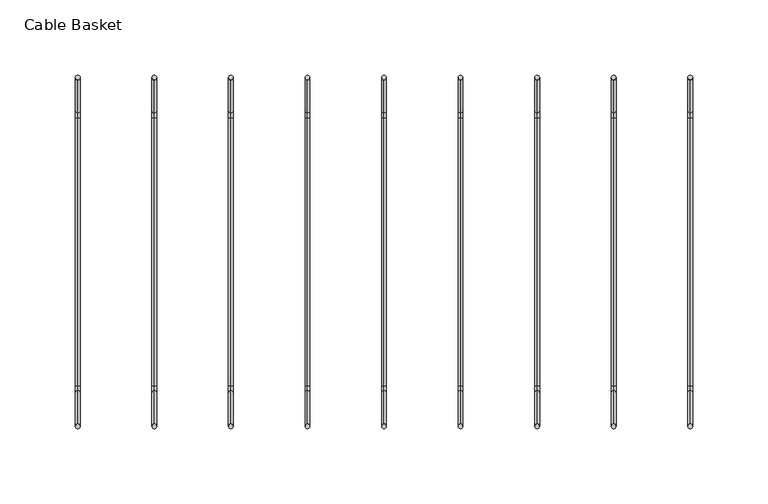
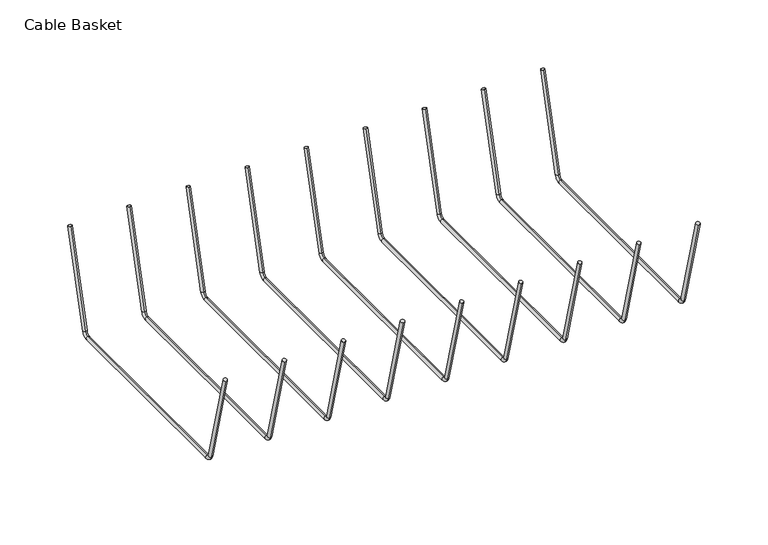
"""IFC4 building model written with IfcOpenShell, lengths in millimetres: furniture geometry, Senator_Lockers_SenseiQ_CableBasket : Cable Basket."""

from ifc_helpers import new_model, si_unit, point, frame, origin, place, context, project, spatial, circle_curve, ellipse_curve, trimmed, source, transform, mapped, element, save
from ifc_brep_helpers import plane_surface, cylinder_surface, revolved_surface, advanced_brep


def cable_basket_346b2b80(model_context):
    return source(origin(), model_context, "Body", "AdvancedBrep", [
        advanced_brep(
        [(463.1, -117.1901079, 90.4858785), (463.1, -114.0991453, 91.3140995), (463.1, -95.0858753, 7.9917594), (463.1, -91.9949127, 8.8199804), (463.1, -88.7107649, 6.2999651), (463.1, -88.7107649, 3.0999651), (463.1, 88.710803, 3.0999651), (463.1, 88.710803, 6.2999651), (463.1, 91.9949508, 8.8199804), (463.1, 95.0859135, 7.9917594), (463.1, 117.1901461, 90.4858785), (463.1, 114.0991834, 91.3140995)],
        [
            (0, 1, circle_curve(frame((463.1, -115.6446266, 90.899989), z_axis=(0.0, -0.25881904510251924, 0.9659258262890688), x_axis=(0.0, 0.9659258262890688, 0.25881904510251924)), 1.6)),
            (1, 0, circle_curve(frame((463.1, -115.6446266, 90.899989), z_axis=(0.0, -0.25881904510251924, 0.9659258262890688), x_axis=(0.0, 0.9659258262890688, 0.25881904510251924)), 1.6)),
            (0, 2),
            (2, 3, circle_curve(frame((463.1, -93.540394, 8.4058699), z_axis=(0.0, -0.25881904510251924, 0.9659258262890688), x_axis=(0.0, 0.9659258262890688, 0.25881904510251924)), 1.6)),
            (3, 1),
            (3, 2, circle_curve(frame((463.1, -93.540394, 8.4058699), z_axis=(0.0, -0.25881904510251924, 0.9659258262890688), x_axis=(0.0, 0.9659258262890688, 0.25881904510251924)), 1.6)),
            (4, 5, circle_curve(frame((463.1, -88.7107649, 4.6999651), z_axis=(0.0, 1.0, 0.0), x_axis=(0.0, 0.0, 1.0)), 1.6)),
            (5, 6),
            (6, 7, circle_curve(frame((463.1, 88.710803, 4.6999651), z_axis=(0.0, -1.0, 0.0), x_axis=(0.0, 0.0, 1.0)), 1.6)),
            (7, 4),
            (5, 4, circle_curve(frame((463.1, -88.7107649, 4.6999651), z_axis=(0.0, 1.0, 0.0), x_axis=(0.0, 0.0, 1.0)), 1.6)),
            (7, 6, circle_curve(frame((463.1, 88.710803, 4.6999651), z_axis=(0.0, -1.0, 0.0), x_axis=(0.0, 0.0, 1.0)), 1.6)),
            (8, 7, circle_curve(frame((463.1, 88.710803, 9.6999651), z_axis=(-1.0, 0.0, 0.0), x_axis=(0.0, 0.0, -1.0)), 3.4)),
            (6, 9, circle_curve(frame((463.1, 88.710803, 9.6999651), z_axis=(1.0, 0.0, 0.0), x_axis=(0.0, 0.0, -1.0)), 6.6)),
            (9, 8, circle_curve(frame((463.1, 93.5404322, 8.4058699), z_axis=(0.0, -0.2588190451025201, -0.9659258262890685), x_axis=(0.0, -0.9659258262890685, 0.2588190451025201)), 1.6)),
            (8, 9, circle_curve(frame((463.1, 93.5404322, 8.4058699), z_axis=(0.0, -0.25881904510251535, -0.9659258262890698), x_axis=(0.0, -0.9659258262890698, 0.25881904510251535)), 1.6)),
            (10, 11, circle_curve(frame((463.1, 115.6446648, 90.899989), z_axis=(0.0, 0.25881904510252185, 0.965925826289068), x_axis=(0.0, -0.965925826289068, 0.25881904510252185)), 1.6)),
            (11, 10, circle_curve(frame((463.1, 115.6446648, 90.899989), z_axis=(0.0, 0.25881904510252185, 0.965925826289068), x_axis=(0.0, -0.965925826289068, 0.25881904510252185)), 1.6)),
            (9, 10),
            (11, 8),
            (4, 3, circle_curve(frame((463.1, -88.7107649, 9.6999651), z_axis=(-1.0, 0.0, 0.0), x_axis=(0.0, -0.9659258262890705, -0.2588190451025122)), 3.4)),
            (2, 5, circle_curve(frame((463.1, -88.7107649, 9.6999651), z_axis=(1.0, 0.0, 0.0), x_axis=(0.0, -0.9659258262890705, -0.2588190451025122)), 6.6)),
        ],
        [
            plane_surface(frame((463.1, -115.6446266, 90.899989), z_axis=(0.0, -0.25881904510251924, 0.9659258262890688), x_axis=(1.0, 0.0, 0.0))),
            cylinder_surface(frame((463.1, -115.6446266, 90.899989), z_axis=(0.0, -0.25881904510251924, 0.9659258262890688), x_axis=(0.0, 0.9659258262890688, 0.25881904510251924)), 1.6),
            cylinder_surface(frame((463.1, -88.7107649, 4.6999651), z_axis=(0.0, -1.0, 0.0), x_axis=(0.0, 0.0, 1.0)), 1.6),
            revolved_surface(trimmed(ellipse_curve(frame((463.1, 88.710803, 4.6999651), z_axis=(0.0, -1.0, 0.0), x_axis=(0.0, 0.0, 1.0)), 1.6, 1.6), [point((463.1, 88.710803, 3.0999651))], [point((463.1, 88.710803, 6.2999651))], True, "CARTESIAN"), (463.1, 88.710803, 9.6999651), (1.0, 0.0, 0.0)),
            revolved_surface(trimmed(ellipse_curve(frame((463.1, 88.710803, 4.6999651), z_axis=(0.0, -1.0, 0.0), x_axis=(0.0, 0.0, 1.0)), 1.6, 1.6), [point((463.1, 88.710803, 6.2999651))], [point((463.1, 88.710803, 3.0999651))], True, "CARTESIAN"), (463.1, 88.710803, 9.6999651), (1.0, 0.0, 0.0)),
            plane_surface(frame((463.1, 115.6446648, 90.899989), z_axis=(0.0, 0.2588190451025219, 0.965925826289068), x_axis=(1.0, 0.0, 0.0))),
            cylinder_surface(frame((463.1, 93.5404322, 8.4058699), z_axis=(0.0, -0.25881904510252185, -0.965925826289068), x_axis=(0.0, -0.965925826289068, 0.25881904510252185)), 1.6),
            revolved_surface(trimmed(ellipse_curve(frame((463.1, -93.540394, 8.4058699), z_axis=(0.0, -0.2588190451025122, 0.9659258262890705), x_axis=(0.0, 0.9659258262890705, 0.2588190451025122)), 1.6, 1.6), [point((463.1, -95.0858753, 7.9917594))], [point((463.1, -91.9949127, 8.8199804))], True, "CARTESIAN"), (463.1, -88.7107649, 9.6999651), (1.0, 0.0, 0.0)),
            revolved_surface(trimmed(ellipse_curve(frame((463.1, -93.540394, 8.4058699), z_axis=(0.0, -0.2588190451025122, 0.9659258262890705), x_axis=(0.0, 0.9659258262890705, 0.2588190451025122)), 1.6, 1.6), [point((463.1, -91.9949127, 8.8199804))], [point((463.1, -95.0858753, 7.9917594))], True, "CARTESIAN"), (463.1, -88.7107649, 9.6999651), (1.0, 0.0, 0.0)),
        ],
        [
            (0, [[1, 2]]),
            (1, [[-1, 3, 4, 5]]),
            (1, [[-2, -5, 6, -3]]),
            (2, [[7, 8, 9, 10]]),
            (2, [[11, -10, 12, -8]]),
            (3, [[13, -9, 14, 15]]),
            (4, [[-14, -12, -13, 16]]),
            (5, [[17, 18]]),
            (6, [[-15, 19, -18, 20]]),
            (6, [[-16, -20, -17, -19]]),
            (7, [[21, -4, 22, -7]]),
            (8, [[-22, -6, -21, -11]]),
        ],
    ),
        advanced_brep(
        [(412.3, -117.1901079, 90.4858785), (412.3, -114.0991453, 91.3140995), (412.3, -95.0858753, 7.9917594), (412.3, -91.9949127, 8.8199804), (412.3, -88.7107649, 6.2999651), (412.3, -88.7107649, 3.0999651), (412.3, 88.710803, 3.0999651), (412.3, 88.710803, 6.2999651), (412.3, 91.9949508, 8.8199804), (412.3, 95.0859135, 7.9917594), (412.3, 117.1901461, 90.4858785), (412.3, 114.0991834, 91.3140995)],
        [
            (0, 1, circle_curve(frame((412.3, -115.6446266, 90.899989), z_axis=(0.0, -0.25881904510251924, 0.9659258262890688), x_axis=(0.0, 0.9659258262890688, 0.25881904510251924)), 1.6)),
            (1, 0, circle_curve(frame((412.3, -115.6446266, 90.899989), z_axis=(0.0, -0.25881904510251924, 0.9659258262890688), x_axis=(0.0, 0.9659258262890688, 0.25881904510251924)), 1.6)),
            (0, 2),
            (2, 3, circle_curve(frame((412.3, -93.540394, 8.4058699), z_axis=(0.0, -0.25881904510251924, 0.9659258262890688), x_axis=(0.0, 0.9659258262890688, 0.25881904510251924)), 1.6)),
            (3, 1),
            (3, 2, circle_curve(frame((412.3, -93.540394, 8.4058699), z_axis=(0.0, -0.25881904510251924, 0.9659258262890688), x_axis=(0.0, 0.9659258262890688, 0.25881904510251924)), 1.6)),
            (4, 5, circle_curve(frame((412.3, -88.7107649, 4.6999651), z_axis=(0.0, 1.0, 0.0), x_axis=(0.0, 0.0, 1.0)), 1.6)),
            (5, 6),
            (6, 7, circle_curve(frame((412.3, 88.710803, 4.6999651), z_axis=(0.0, -1.0, 0.0), x_axis=(0.0, 0.0, 1.0)), 1.6)),
            (7, 4),
            (5, 4, circle_curve(frame((412.3, -88.7107649, 4.6999651), z_axis=(0.0, 1.0, 0.0), x_axis=(0.0, 0.0, 1.0)), 1.6)),
            (7, 6, circle_curve(frame((412.3, 88.710803, 4.6999651), z_axis=(0.0, -1.0, 0.0), x_axis=(0.0, 0.0, 1.0)), 1.6)),
            (8, 7, circle_curve(frame((412.3, 88.710803, 9.6999651), z_axis=(-1.0, 0.0, 0.0), x_axis=(0.0, 0.0, -1.0)), 3.4)),
            (6, 9, circle_curve(frame((412.3, 88.710803, 9.6999651), z_axis=(1.0, 0.0, 0.0), x_axis=(0.0, 0.0, -1.0)), 6.6)),
            (9, 8, circle_curve(frame((412.3, 93.5404322, 8.4058699), z_axis=(0.0, -0.2588190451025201, -0.9659258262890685), x_axis=(0.0, -0.9659258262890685, 0.2588190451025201)), 1.6)),
            (8, 9, circle_curve(frame((412.3, 93.5404322, 8.4058699), z_axis=(0.0, -0.25881904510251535, -0.9659258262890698), x_axis=(0.0, -0.9659258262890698, 0.25881904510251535)), 1.6)),
            (10, 11, circle_curve(frame((412.3, 115.6446648, 90.899989), z_axis=(0.0, 0.25881904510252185, 0.965925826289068), x_axis=(0.0, -0.965925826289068, 0.25881904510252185)), 1.6)),
            (11, 10, circle_curve(frame((412.3, 115.6446648, 90.899989), z_axis=(0.0, 0.25881904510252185, 0.965925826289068), x_axis=(0.0, -0.965925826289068, 0.25881904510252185)), 1.6)),
            (9, 10),
            (11, 8),
            (4, 3, circle_curve(frame((412.3, -88.7107649, 9.6999651), z_axis=(-1.0, 0.0, 0.0), x_axis=(0.0, -0.9659258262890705, -0.2588190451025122)), 3.4)),
            (2, 5, circle_curve(frame((412.3, -88.7107649, 9.6999651), z_axis=(1.0, 0.0, 0.0), x_axis=(0.0, -0.9659258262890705, -0.2588190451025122)), 6.6)),
        ],
        [
            plane_surface(frame((412.3, -115.6446266, 90.899989), z_axis=(0.0, -0.25881904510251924, 0.9659258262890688), x_axis=(1.0, 0.0, 0.0))),
            cylinder_surface(frame((412.3, -115.6446266, 90.899989), z_axis=(0.0, -0.25881904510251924, 0.9659258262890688), x_axis=(0.0, 0.9659258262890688, 0.25881904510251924)), 1.6),
            cylinder_surface(frame((412.3, -88.7107649, 4.6999651), z_axis=(0.0, -1.0, 0.0), x_axis=(0.0, 0.0, 1.0)), 1.6),
            revolved_surface(trimmed(ellipse_curve(frame((412.3, 88.710803, 4.6999651), z_axis=(0.0, -1.0, 0.0), x_axis=(0.0, 0.0, 1.0)), 1.6, 1.6), [point((412.3, 88.710803, 3.0999651))], [point((412.3, 88.710803, 6.2999651))], True, "CARTESIAN"), (412.3, 88.710803, 9.6999651), (1.0, 0.0, 0.0)),
            revolved_surface(trimmed(ellipse_curve(frame((412.3, 88.710803, 4.6999651), z_axis=(0.0, -1.0, 0.0), x_axis=(0.0, 0.0, 1.0)), 1.6, 1.6), [point((412.3, 88.710803, 6.2999651))], [point((412.3, 88.710803, 3.0999651))], True, "CARTESIAN"), (412.3, 88.710803, 9.6999651), (1.0, 0.0, 0.0)),
            plane_surface(frame((412.3, 115.6446648, 90.899989), z_axis=(0.0, 0.2588190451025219, 0.965925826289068), x_axis=(1.0, 0.0, 0.0))),
            cylinder_surface(frame((412.3, 93.5404322, 8.4058699), z_axis=(0.0, -0.25881904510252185, -0.965925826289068), x_axis=(0.0, -0.965925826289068, 0.25881904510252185)), 1.6),
            revolved_surface(trimmed(ellipse_curve(frame((412.3, -93.540394, 8.4058699), z_axis=(0.0, -0.2588190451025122, 0.9659258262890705), x_axis=(0.0, 0.9659258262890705, 0.2588190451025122)), 1.6, 1.6), [point((412.3, -95.0858753, 7.9917594))], [point((412.3, -91.9949127, 8.8199804))], True, "CARTESIAN"), (412.3, -88.7107649, 9.6999651), (1.0, 0.0, 0.0)),
            revolved_surface(trimmed(ellipse_curve(frame((412.3, -93.540394, 8.4058699), z_axis=(0.0, -0.2588190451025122, 0.9659258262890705), x_axis=(0.0, 0.9659258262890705, 0.2588190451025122)), 1.6, 1.6), [point((412.3, -91.9949127, 8.8199804))], [point((412.3, -95.0858753, 7.9917594))], True, "CARTESIAN"), (412.3, -88.7107649, 9.6999651), (1.0, 0.0, 0.0)),
        ],
        [
            (0, [[1, 2]]),
            (1, [[-1, 3, 4, 5]]),
            (1, [[-2, -5, 6, -3]]),
            (2, [[7, 8, 9, 10]]),
            (2, [[11, -10, 12, -8]]),
            (3, [[13, -9, 14, 15]]),
            (4, [[-14, -12, -13, 16]]),
            (5, [[17, 18]]),
            (6, [[-15, 19, -18, 20]]),
            (6, [[-16, -20, -17, -19]]),
            (7, [[21, -4, 22, -7]]),
            (8, [[-22, -6, -21, -11]]),
        ],
    ),
        advanced_brep(
        [(361.5, -117.1901079, 90.4858785), (361.5, -114.0991453, 91.3140995), (361.5, -95.0858753, 7.9917594), (361.5, -91.9949127, 8.8199804), (361.5, -88.7107649, 6.2999651), (361.5, -88.7107649, 3.0999651), (361.5, 88.710803, 3.0999651), (361.5, 88.710803, 6.2999651), (361.5, 91.9949508, 8.8199804), (361.5, 95.0859135, 7.9917594), (361.5, 117.1901461, 90.4858785), (361.5, 114.0991834, 91.3140995)],
        [
            (0, 1, circle_curve(frame((361.5, -115.6446266, 90.899989), z_axis=(0.0, -0.25881904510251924, 0.9659258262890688), x_axis=(0.0, 0.9659258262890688, 0.25881904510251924)), 1.6)),
            (1, 0, circle_curve(frame((361.5, -115.6446266, 90.899989), z_axis=(0.0, -0.25881904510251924, 0.9659258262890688), x_axis=(0.0, 0.9659258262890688, 0.25881904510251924)), 1.6)),
            (0, 2),
            (2, 3, circle_curve(frame((361.5, -93.540394, 8.4058699), z_axis=(0.0, -0.25881904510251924, 0.9659258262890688), x_axis=(0.0, 0.9659258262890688, 0.25881904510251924)), 1.6)),
            (3, 1),
            (3, 2, circle_curve(frame((361.5, -93.540394, 8.4058699), z_axis=(0.0, -0.25881904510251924, 0.9659258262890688), x_axis=(0.0, 0.9659258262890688, 0.25881904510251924)), 1.6)),
            (4, 5, circle_curve(frame((361.5, -88.7107649, 4.6999651), z_axis=(0.0, 1.0, 0.0), x_axis=(0.0, 0.0, 1.0)), 1.6)),
            (5, 6),
            (6, 7, circle_curve(frame((361.5, 88.710803, 4.6999651), z_axis=(0.0, -1.0, 0.0), x_axis=(0.0, 0.0, 1.0)), 1.6)),
            (7, 4),
            (5, 4, circle_curve(frame((361.5, -88.7107649, 4.6999651), z_axis=(0.0, 1.0, 0.0), x_axis=(0.0, 0.0, 1.0)), 1.6)),
            (7, 6, circle_curve(frame((361.5, 88.710803, 4.6999651), z_axis=(0.0, -1.0, 0.0), x_axis=(0.0, 0.0, 1.0)), 1.6)),
            (8, 7, circle_curve(frame((361.5, 88.710803, 9.6999651), z_axis=(-1.0, 0.0, 0.0), x_axis=(0.0, 0.0, -1.0)), 3.4)),
            (6, 9, circle_curve(frame((361.5, 88.710803, 9.6999651), z_axis=(1.0, 0.0, 0.0), x_axis=(0.0, 0.0, -1.0)), 6.6)),
            (9, 8, circle_curve(frame((361.5, 93.5404322, 8.4058699), z_axis=(0.0, -0.2588190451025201, -0.9659258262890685), x_axis=(0.0, -0.9659258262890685, 0.2588190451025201)), 1.6)),
            (8, 9, circle_curve(frame((361.5, 93.5404322, 8.4058699), z_axis=(0.0, -0.25881904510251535, -0.9659258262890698), x_axis=(0.0, -0.9659258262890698, 0.25881904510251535)), 1.6)),
            (10, 11, circle_curve(frame((361.5, 115.6446648, 90.899989), z_axis=(0.0, 0.25881904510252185, 0.965925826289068), x_axis=(0.0, -0.965925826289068, 0.25881904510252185)), 1.6)),
            (11, 10, circle_curve(frame((361.5, 115.6446648, 90.899989), z_axis=(0.0, 0.25881904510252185, 0.965925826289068), x_axis=(0.0, -0.965925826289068, 0.25881904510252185)), 1.6)),
            (9, 10),
            (11, 8),
            (4, 3, circle_curve(frame((361.5, -88.7107649, 9.6999651), z_axis=(-1.0, 0.0, 0.0), x_axis=(0.0, -0.9659258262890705, -0.2588190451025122)), 3.4)),
            (2, 5, circle_curve(frame((361.5, -88.7107649, 9.6999651), z_axis=(1.0, 0.0, 0.0), x_axis=(0.0, -0.9659258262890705, -0.2588190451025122)), 6.6)),
        ],
        [
            plane_surface(frame((361.5, -115.6446266, 90.899989), z_axis=(0.0, -0.25881904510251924, 0.9659258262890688), x_axis=(1.0, 0.0, 0.0))),
            cylinder_surface(frame((361.5, -115.6446266, 90.899989), z_axis=(0.0, -0.25881904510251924, 0.9659258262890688), x_axis=(0.0, 0.9659258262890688, 0.25881904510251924)), 1.6),
            cylinder_surface(frame((361.5, -88.7107649, 4.6999651), z_axis=(0.0, -1.0, 0.0), x_axis=(0.0, 0.0, 1.0)), 1.6),
            revolved_surface(trimmed(ellipse_curve(frame((361.5, 88.710803, 4.6999651), z_axis=(0.0, -1.0, 0.0), x_axis=(0.0, 0.0, 1.0)), 1.6, 1.6), [point((361.5, 88.710803, 3.0999651))], [point((361.5, 88.710803, 6.2999651))], True, "CARTESIAN"), (361.5, 88.710803, 9.6999651), (1.0, 0.0, 0.0)),
            revolved_surface(trimmed(ellipse_curve(frame((361.5, 88.710803, 4.6999651), z_axis=(0.0, -1.0, 0.0), x_axis=(0.0, 0.0, 1.0)), 1.6, 1.6), [point((361.5, 88.710803, 6.2999651))], [point((361.5, 88.710803, 3.0999651))], True, "CARTESIAN"), (361.5, 88.710803, 9.6999651), (1.0, 0.0, 0.0)),
            plane_surface(frame((361.5, 115.6446648, 90.899989), z_axis=(0.0, 0.2588190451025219, 0.965925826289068), x_axis=(1.0, 0.0, 0.0))),
            cylinder_surface(frame((361.5, 93.5404322, 8.4058699), z_axis=(0.0, -0.25881904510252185, -0.965925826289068), x_axis=(0.0, -0.965925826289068, 0.25881904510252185)), 1.6),
            revolved_surface(trimmed(ellipse_curve(frame((361.5, -93.540394, 8.4058699), z_axis=(0.0, -0.2588190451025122, 0.9659258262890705), x_axis=(0.0, 0.9659258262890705, 0.2588190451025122)), 1.6, 1.6), [point((361.5, -95.0858753, 7.9917594))], [point((361.5, -91.9949127, 8.8199804))], True, "CARTESIAN"), (361.5, -88.7107649, 9.6999651), (1.0, 0.0, 0.0)),
            revolved_surface(trimmed(ellipse_curve(frame((361.5, -93.540394, 8.4058699), z_axis=(0.0, -0.2588190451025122, 0.9659258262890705), x_axis=(0.0, 0.9659258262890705, 0.2588190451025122)), 1.6, 1.6), [point((361.5, -91.9949127, 8.8199804))], [point((361.5, -95.0858753, 7.9917594))], True, "CARTESIAN"), (361.5, -88.7107649, 9.6999651), (1.0, 0.0, 0.0)),
        ],
        [
            (0, [[1, 2]]),
            (1, [[-1, 3, 4, 5]]),
            (1, [[-2, -5, 6, -3]]),
            (2, [[7, 8, 9, 10]]),
            (2, [[11, -10, 12, -8]]),
            (3, [[13, -9, 14, 15]]),
            (4, [[-14, -12, -13, 16]]),
            (5, [[17, 18]]),
            (6, [[-15, 19, -18, 20]]),
            (6, [[-16, -20, -17, -19]]),
            (7, [[21, -4, 22, -7]]),
            (8, [[-22, -6, -21, -11]]),
        ],
    ),
        advanced_brep(
        [(310.7, -117.1901079, 90.4858785), (310.7, -114.0991453, 91.3140995), (310.7, -95.0858753, 7.9917594), (310.7, -91.9949127, 8.8199804), (310.7, -88.7107649, 6.2999651), (310.7, -88.7107649, 3.0999651), (310.7, 88.710803, 3.0999651), (310.7, 88.710803, 6.2999651), (310.7, 91.9949508, 8.8199804), (310.7, 95.0859135, 7.9917594), (310.7, 117.1901461, 90.4858785), (310.7, 114.0991834, 91.3140995)],
        [
            (0, 1, circle_curve(frame((310.7, -115.6446266, 90.899989), z_axis=(0.0, -0.25881904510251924, 0.9659258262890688), x_axis=(0.0, 0.9659258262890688, 0.25881904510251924)), 1.6)),
            (1, 0, circle_curve(frame((310.7, -115.6446266, 90.899989), z_axis=(0.0, -0.25881904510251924, 0.9659258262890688), x_axis=(0.0, 0.9659258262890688, 0.25881904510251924)), 1.6)),
            (0, 2),
            (2, 3, circle_curve(frame((310.7, -93.540394, 8.4058699), z_axis=(0.0, -0.25881904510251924, 0.9659258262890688), x_axis=(0.0, 0.9659258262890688, 0.25881904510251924)), 1.6)),
            (3, 1),
            (3, 2, circle_curve(frame((310.7, -93.540394, 8.4058699), z_axis=(0.0, -0.25881904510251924, 0.9659258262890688), x_axis=(0.0, 0.9659258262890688, 0.25881904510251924)), 1.6)),
            (4, 5, circle_curve(frame((310.7, -88.7107649, 4.6999651), z_axis=(0.0, 1.0, 0.0), x_axis=(0.0, 0.0, 1.0)), 1.6)),
            (5, 6),
            (6, 7, circle_curve(frame((310.7, 88.710803, 4.6999651), z_axis=(0.0, -1.0, 0.0), x_axis=(0.0, 0.0, 1.0)), 1.6)),
            (7, 4),
            (5, 4, circle_curve(frame((310.7, -88.7107649, 4.6999651), z_axis=(0.0, 1.0, 0.0), x_axis=(0.0, 0.0, 1.0)), 1.6)),
            (7, 6, circle_curve(frame((310.7, 88.710803, 4.6999651), z_axis=(0.0, -1.0, 0.0), x_axis=(0.0, 0.0, 1.0)), 1.6)),
            (8, 7, circle_curve(frame((310.7, 88.710803, 9.6999651), z_axis=(-1.0, 0.0, 0.0), x_axis=(0.0, 0.0, -1.0)), 3.4)),
            (6, 9, circle_curve(frame((310.7, 88.710803, 9.6999651), z_axis=(1.0, 0.0, 0.0), x_axis=(0.0, 0.0, -1.0)), 6.6)),
            (9, 8, circle_curve(frame((310.7, 93.5404322, 8.4058699), z_axis=(0.0, -0.2588190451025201, -0.9659258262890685), x_axis=(0.0, -0.9659258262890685, 0.2588190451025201)), 1.6)),
            (8, 9, circle_curve(frame((310.7, 93.5404322, 8.4058699), z_axis=(0.0, -0.25881904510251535, -0.9659258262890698), x_axis=(0.0, -0.9659258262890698, 0.25881904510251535)), 1.6)),
            (10, 11, circle_curve(frame((310.7, 115.6446648, 90.899989), z_axis=(0.0, 0.25881904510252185, 0.965925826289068), x_axis=(0.0, -0.965925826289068, 0.25881904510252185)), 1.6)),
            (11, 10, circle_curve(frame((310.7, 115.6446648, 90.899989), z_axis=(0.0, 0.25881904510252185, 0.965925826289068), x_axis=(0.0, -0.965925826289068, 0.25881904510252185)), 1.6)),
            (9, 10),
            (11, 8),
            (4, 3, circle_curve(frame((310.7, -88.7107649, 9.6999651), z_axis=(-1.0, 0.0, 0.0), x_axis=(0.0, -0.9659258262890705, -0.2588190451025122)), 3.4)),
            (2, 5, circle_curve(frame((310.7, -88.7107649, 9.6999651), z_axis=(1.0, 0.0, 0.0), x_axis=(0.0, -0.9659258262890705, -0.2588190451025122)), 6.6)),
        ],
        [
            plane_surface(frame((310.7, -115.6446266, 90.899989), z_axis=(0.0, -0.25881904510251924, 0.9659258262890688), x_axis=(1.0, 0.0, 0.0))),
            cylinder_surface(frame((310.7, -115.6446266, 90.899989), z_axis=(0.0, -0.25881904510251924, 0.9659258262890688), x_axis=(0.0, 0.9659258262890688, 0.25881904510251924)), 1.6),
            cylinder_surface(frame((310.7, -88.7107649, 4.6999651), z_axis=(0.0, -1.0, 0.0), x_axis=(0.0, 0.0, 1.0)), 1.6),
            revolved_surface(trimmed(ellipse_curve(frame((310.7, 88.710803, 4.6999651), z_axis=(0.0, -1.0, 0.0), x_axis=(0.0, 0.0, 1.0)), 1.6, 1.6), [point((310.7, 88.710803, 3.0999651))], [point((310.7, 88.710803, 6.2999651))], True, "CARTESIAN"), (310.7, 88.710803, 9.6999651), (1.0, 0.0, 0.0)),
            revolved_surface(trimmed(ellipse_curve(frame((310.7, 88.710803, 4.6999651), z_axis=(0.0, -1.0, 0.0), x_axis=(0.0, 0.0, 1.0)), 1.6, 1.6), [point((310.7, 88.710803, 6.2999651))], [point((310.7, 88.710803, 3.0999651))], True, "CARTESIAN"), (310.7, 88.710803, 9.6999651), (1.0, 0.0, 0.0)),
            plane_surface(frame((310.7, 115.6446648, 90.899989), z_axis=(0.0, 0.2588190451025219, 0.965925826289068), x_axis=(1.0, 0.0, 0.0))),
            cylinder_surface(frame((310.7, 93.5404322, 8.4058699), z_axis=(0.0, -0.25881904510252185, -0.965925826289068), x_axis=(0.0, -0.965925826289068, 0.25881904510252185)), 1.6),
            revolved_surface(trimmed(ellipse_curve(frame((310.7, -93.540394, 8.4058699), z_axis=(0.0, -0.2588190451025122, 0.9659258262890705), x_axis=(0.0, 0.9659258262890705, 0.2588190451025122)), 1.6, 1.6), [point((310.7, -95.0858753, 7.9917594))], [point((310.7, -91.9949127, 8.8199804))], True, "CARTESIAN"), (310.7, -88.7107649, 9.6999651), (1.0, 0.0, 0.0)),
            revolved_surface(trimmed(ellipse_curve(frame((310.7, -93.540394, 8.4058699), z_axis=(0.0, -0.2588190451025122, 0.9659258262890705), x_axis=(0.0, 0.9659258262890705, 0.2588190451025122)), 1.6, 1.6), [point((310.7, -91.9949127, 8.8199804))], [point((310.7, -95.0858753, 7.9917594))], True, "CARTESIAN"), (310.7, -88.7107649, 9.6999651), (1.0, 0.0, 0.0)),
        ],
        [
            (0, [[1, 2]]),
            (1, [[-1, 3, 4, 5]]),
            (1, [[-2, -5, 6, -3]]),
            (2, [[7, 8, 9, 10]]),
            (2, [[11, -10, 12, -8]]),
            (3, [[13, -9, 14, 15]]),
            (4, [[-14, -12, -13, 16]]),
            (5, [[17, 18]]),
            (6, [[-15, 19, -18, 20]]),
            (6, [[-16, -20, -17, -19]]),
            (7, [[21, -4, 22, -7]]),
            (8, [[-22, -6, -21, -11]]),
        ],
    ),
        advanced_brep(
        [(259.9, -117.1901079, 90.4858785), (259.9, -114.0991453, 91.3140995), (259.9, -95.0858753, 7.9917594), (259.9, -91.9949127, 8.8199804), (259.9, -88.7107649, 6.2999651), (259.9, -88.7107649, 3.0999651), (259.9, 88.710803, 3.0999651), (259.9, 88.710803, 6.2999651), (259.9, 91.9949508, 8.8199804), (259.9, 95.0859135, 7.9917594), (259.9, 117.1901461, 90.4858785), (259.9, 114.0991834, 91.3140995)],
        [
            (0, 1, circle_curve(frame((259.9, -115.6446266, 90.899989), z_axis=(0.0, -0.25881904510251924, 0.9659258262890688), x_axis=(0.0, 0.9659258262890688, 0.25881904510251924)), 1.6)),
            (1, 0, circle_curve(frame((259.9, -115.6446266, 90.899989), z_axis=(0.0, -0.25881904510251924, 0.9659258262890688), x_axis=(0.0, 0.9659258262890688, 0.25881904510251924)), 1.6)),
            (0, 2),
            (2, 3, circle_curve(frame((259.9, -93.540394, 8.4058699), z_axis=(0.0, -0.25881904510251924, 0.9659258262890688), x_axis=(0.0, 0.9659258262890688, 0.25881904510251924)), 1.6)),
            (3, 1),
            (3, 2, circle_curve(frame((259.9, -93.540394, 8.4058699), z_axis=(0.0, -0.25881904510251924, 0.9659258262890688), x_axis=(0.0, 0.9659258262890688, 0.25881904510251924)), 1.6)),
            (4, 5, circle_curve(frame((259.9, -88.7107649, 4.6999651), z_axis=(0.0, 1.0, 0.0), x_axis=(0.0, 0.0, 1.0)), 1.6)),
            (5, 6),
            (6, 7, circle_curve(frame((259.9, 88.710803, 4.6999651), z_axis=(0.0, -1.0, 0.0), x_axis=(0.0, 0.0, 1.0)), 1.6)),
            (7, 4),
            (5, 4, circle_curve(frame((259.9, -88.7107649, 4.6999651), z_axis=(0.0, 1.0, 0.0), x_axis=(0.0, 0.0, 1.0)), 1.6)),
            (7, 6, circle_curve(frame((259.9, 88.710803, 4.6999651), z_axis=(0.0, -1.0, 0.0), x_axis=(0.0, 0.0, 1.0)), 1.6)),
            (8, 7, circle_curve(frame((259.9, 88.710803, 9.6999651), z_axis=(-1.0, 0.0, 0.0), x_axis=(0.0, 0.0, -1.0)), 3.4)),
            (6, 9, circle_curve(frame((259.9, 88.710803, 9.6999651), z_axis=(1.0, 0.0, 0.0), x_axis=(0.0, 0.0, -1.0)), 6.6)),
            (9, 8, circle_curve(frame((259.9, 93.5404322, 8.4058699), z_axis=(0.0, -0.2588190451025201, -0.9659258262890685), x_axis=(0.0, -0.9659258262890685, 0.2588190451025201)), 1.6)),
            (8, 9, circle_curve(frame((259.9, 93.5404322, 8.4058699), z_axis=(0.0, -0.25881904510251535, -0.9659258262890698), x_axis=(0.0, -0.9659258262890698, 0.25881904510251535)), 1.6)),
            (10, 11, circle_curve(frame((259.9, 115.6446648, 90.899989), z_axis=(0.0, 0.25881904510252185, 0.965925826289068), x_axis=(0.0, -0.965925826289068, 0.25881904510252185)), 1.6)),
            (11, 10, circle_curve(frame((259.9, 115.6446648, 90.899989), z_axis=(0.0, 0.25881904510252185, 0.965925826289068), x_axis=(0.0, -0.965925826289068, 0.25881904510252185)), 1.6)),
            (9, 10),
            (11, 8),
            (4, 3, circle_curve(frame((259.9, -88.7107649, 9.6999651), z_axis=(-1.0, 0.0, 0.0), x_axis=(0.0, -0.9659258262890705, -0.2588190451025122)), 3.4)),
            (2, 5, circle_curve(frame((259.9, -88.7107649, 9.6999651), z_axis=(1.0, 0.0, 0.0), x_axis=(0.0, -0.9659258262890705, -0.2588190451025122)), 6.6)),
        ],
        [
            plane_surface(frame((259.9, -115.6446266, 90.899989), z_axis=(0.0, -0.25881904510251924, 0.9659258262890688), x_axis=(1.0, 0.0, 0.0))),
            cylinder_surface(frame((259.9, -115.6446266, 90.899989), z_axis=(0.0, -0.25881904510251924, 0.9659258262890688), x_axis=(0.0, 0.9659258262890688, 0.25881904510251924)), 1.6),
            cylinder_surface(frame((259.9, -88.7107649, 4.6999651), z_axis=(0.0, -1.0, 0.0), x_axis=(0.0, 0.0, 1.0)), 1.6),
            revolved_surface(trimmed(ellipse_curve(frame((259.9, 88.710803, 4.6999651), z_axis=(0.0, -1.0, 0.0), x_axis=(0.0, 0.0, 1.0)), 1.6, 1.6), [point((259.9, 88.710803, 3.0999651))], [point((259.9, 88.710803, 6.2999651))], True, "CARTESIAN"), (259.9, 88.710803, 9.6999651), (1.0, 0.0, 0.0)),
            revolved_surface(trimmed(ellipse_curve(frame((259.9, 88.710803, 4.6999651), z_axis=(0.0, -1.0, 0.0), x_axis=(0.0, 0.0, 1.0)), 1.6, 1.6), [point((259.9, 88.710803, 6.2999651))], [point((259.9, 88.710803, 3.0999651))], True, "CARTESIAN"), (259.9, 88.710803, 9.6999651), (1.0, 0.0, 0.0)),
            plane_surface(frame((259.9, 115.6446648, 90.899989), z_axis=(0.0, 0.2588190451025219, 0.965925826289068), x_axis=(1.0, 0.0, 0.0))),
            cylinder_surface(frame((259.9, 93.5404322, 8.4058699), z_axis=(0.0, -0.25881904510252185, -0.965925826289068), x_axis=(0.0, -0.965925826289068, 0.25881904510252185)), 1.6),
            revolved_surface(trimmed(ellipse_curve(frame((259.9, -93.540394, 8.4058699), z_axis=(0.0, -0.2588190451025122, 0.9659258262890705), x_axis=(0.0, 0.9659258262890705, 0.2588190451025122)), 1.6, 1.6), [point((259.9, -95.0858753, 7.9917594))], [point((259.9, -91.9949127, 8.8199804))], True, "CARTESIAN"), (259.9, -88.7107649, 9.6999651), (1.0, 0.0, 0.0)),
            revolved_surface(trimmed(ellipse_curve(frame((259.9, -93.540394, 8.4058699), z_axis=(0.0, -0.2588190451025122, 0.9659258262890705), x_axis=(0.0, 0.9659258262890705, 0.2588190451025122)), 1.6, 1.6), [point((259.9, -91.9949127, 8.8199804))], [point((259.9, -95.0858753, 7.9917594))], True, "CARTESIAN"), (259.9, -88.7107649, 9.6999651), (1.0, 0.0, 0.0)),
        ],
        [
            (0, [[1, 2]]),
            (1, [[-1, 3, 4, 5]]),
            (1, [[-2, -5, 6, -3]]),
            (2, [[7, 8, 9, 10]]),
            (2, [[11, -10, 12, -8]]),
            (3, [[13, -9, 14, 15]]),
            (4, [[-14, -12, -13, 16]]),
            (5, [[17, 18]]),
            (6, [[-15, 19, -18, 20]]),
            (6, [[-16, -20, -17, -19]]),
            (7, [[21, -4, 22, -7]]),
            (8, [[-22, -6, -21, -11]]),
        ],
    ),
        advanced_brep(
        [(209.1, -117.1901079, 90.4858785), (209.1, -114.0991453, 91.3140995), (209.1, -95.0858753, 7.9917594), (209.1, -91.9949127, 8.8199804), (209.1, -88.7107649, 6.2999651), (209.1, -88.7107649, 3.0999651), (209.1, 88.710803, 3.0999651), (209.1, 88.710803, 6.2999651), (209.1, 91.9949508, 8.8199804), (209.1, 95.0859135, 7.9917594), (209.1, 117.1901461, 90.4858785), (209.1, 114.0991834, 91.3140995)],
        [
            (0, 1, circle_curve(frame((209.1, -115.6446266, 90.899989), z_axis=(0.0, -0.25881904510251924, 0.9659258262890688), x_axis=(0.0, 0.9659258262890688, 0.25881904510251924)), 1.6)),
            (1, 0, circle_curve(frame((209.1, -115.6446266, 90.899989), z_axis=(0.0, -0.25881904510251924, 0.9659258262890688), x_axis=(0.0, 0.9659258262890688, 0.25881904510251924)), 1.6)),
            (0, 2),
            (2, 3, circle_curve(frame((209.1, -93.540394, 8.4058699), z_axis=(0.0, -0.25881904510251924, 0.9659258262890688), x_axis=(0.0, 0.9659258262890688, 0.25881904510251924)), 1.6)),
            (3, 1),
            (3, 2, circle_curve(frame((209.1, -93.540394, 8.4058699), z_axis=(0.0, -0.25881904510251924, 0.9659258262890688), x_axis=(0.0, 0.9659258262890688, 0.25881904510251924)), 1.6)),
            (4, 5, circle_curve(frame((209.1, -88.7107649, 4.6999651), z_axis=(0.0, 1.0, 0.0), x_axis=(0.0, 0.0, 1.0)), 1.6)),
            (5, 6),
            (6, 7, circle_curve(frame((209.1, 88.710803, 4.6999651), z_axis=(0.0, -1.0, 0.0), x_axis=(0.0, 0.0, 1.0)), 1.6)),
            (7, 4),
            (5, 4, circle_curve(frame((209.1, -88.7107649, 4.6999651), z_axis=(0.0, 1.0, 0.0), x_axis=(0.0, 0.0, 1.0)), 1.6)),
            (7, 6, circle_curve(frame((209.1, 88.710803, 4.6999651), z_axis=(0.0, -1.0, 0.0), x_axis=(0.0, 0.0, 1.0)), 1.6)),
            (8, 7, circle_curve(frame((209.1, 88.710803, 9.6999651), z_axis=(-1.0, 0.0, 0.0), x_axis=(0.0, 0.0, -1.0)), 3.4)),
            (6, 9, circle_curve(frame((209.1, 88.710803, 9.6999651), z_axis=(1.0, 0.0, 0.0), x_axis=(0.0, 0.0, -1.0)), 6.6)),
            (9, 8, circle_curve(frame((209.1, 93.5404322, 8.4058699), z_axis=(0.0, -0.2588190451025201, -0.9659258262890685), x_axis=(0.0, -0.9659258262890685, 0.2588190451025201)), 1.6)),
            (8, 9, circle_curve(frame((209.1, 93.5404322, 8.4058699), z_axis=(0.0, -0.25881904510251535, -0.9659258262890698), x_axis=(0.0, -0.9659258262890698, 0.25881904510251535)), 1.6)),
            (10, 11, circle_curve(frame((209.1, 115.6446648, 90.899989), z_axis=(0.0, 0.25881904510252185, 0.965925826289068), x_axis=(0.0, -0.965925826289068, 0.25881904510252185)), 1.6)),
            (11, 10, circle_curve(frame((209.1, 115.6446648, 90.899989), z_axis=(0.0, 0.25881904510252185, 0.965925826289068), x_axis=(0.0, -0.965925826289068, 0.25881904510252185)), 1.6)),
            (9, 10),
            (11, 8),
            (4, 3, circle_curve(frame((209.1, -88.7107649, 9.6999651), z_axis=(-1.0, 0.0, 0.0), x_axis=(0.0, -0.9659258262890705, -0.2588190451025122)), 3.4)),
            (2, 5, circle_curve(frame((209.1, -88.7107649, 9.6999651), z_axis=(1.0, 0.0, 0.0), x_axis=(0.0, -0.9659258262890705, -0.2588190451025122)), 6.6)),
        ],
        [
            plane_surface(frame((209.1, -115.6446266, 90.899989), z_axis=(0.0, -0.25881904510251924, 0.9659258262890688), x_axis=(1.0, 0.0, 0.0))),
            cylinder_surface(frame((209.1, -115.6446266, 90.899989), z_axis=(0.0, -0.25881904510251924, 0.9659258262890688), x_axis=(0.0, 0.9659258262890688, 0.25881904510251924)), 1.6),
            cylinder_surface(frame((209.1, -88.7107649, 4.6999651), z_axis=(0.0, -1.0, 0.0), x_axis=(0.0, 0.0, 1.0)), 1.6),
            revolved_surface(trimmed(ellipse_curve(frame((209.1, 88.710803, 4.6999651), z_axis=(0.0, -1.0, 0.0), x_axis=(0.0, 0.0, 1.0)), 1.6, 1.6), [point((209.1, 88.710803, 3.0999651))], [point((209.1, 88.710803, 6.2999651))], True, "CARTESIAN"), (209.1, 88.710803, 9.6999651), (1.0, 0.0, 0.0)),
            revolved_surface(trimmed(ellipse_curve(frame((209.1, 88.710803, 4.6999651), z_axis=(0.0, -1.0, 0.0), x_axis=(0.0, 0.0, 1.0)), 1.6, 1.6), [point((209.1, 88.710803, 6.2999651))], [point((209.1, 88.710803, 3.0999651))], True, "CARTESIAN"), (209.1, 88.710803, 9.6999651), (1.0, 0.0, 0.0)),
            plane_surface(frame((209.1, 115.6446648, 90.899989), z_axis=(0.0, 0.2588190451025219, 0.965925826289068), x_axis=(1.0, 0.0, 0.0))),
            cylinder_surface(frame((209.1, 93.5404322, 8.4058699), z_axis=(0.0, -0.25881904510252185, -0.965925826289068), x_axis=(0.0, -0.965925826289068, 0.25881904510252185)), 1.6),
            revolved_surface(trimmed(ellipse_curve(frame((209.1, -93.540394, 8.4058699), z_axis=(0.0, -0.2588190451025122, 0.9659258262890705), x_axis=(0.0, 0.9659258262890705, 0.2588190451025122)), 1.6, 1.6), [point((209.1, -95.0858753, 7.9917594))], [point((209.1, -91.9949127, 8.8199804))], True, "CARTESIAN"), (209.1, -88.7107649, 9.6999651), (1.0, 0.0, 0.0)),
            revolved_surface(trimmed(ellipse_curve(frame((209.1, -93.540394, 8.4058699), z_axis=(0.0, -0.2588190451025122, 0.9659258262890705), x_axis=(0.0, 0.9659258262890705, 0.2588190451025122)), 1.6, 1.6), [point((209.1, -91.9949127, 8.8199804))], [point((209.1, -95.0858753, 7.9917594))], True, "CARTESIAN"), (209.1, -88.7107649, 9.6999651), (1.0, 0.0, 0.0)),
        ],
        [
            (0, [[1, 2]]),
            (1, [[-1, 3, 4, 5]]),
            (1, [[-2, -5, 6, -3]]),
            (2, [[7, 8, 9, 10]]),
            (2, [[11, -10, 12, -8]]),
            (3, [[13, -9, 14, 15]]),
            (4, [[-14, -12, -13, 16]]),
            (5, [[17, 18]]),
            (6, [[-15, 19, -18, 20]]),
            (6, [[-16, -20, -17, -19]]),
            (7, [[21, -4, 22, -7]]),
            (8, [[-22, -6, -21, -11]]),
        ],
    ),
        advanced_brep(
        [(158.3, -117.1901079, 90.4858785), (158.3, -114.0991453, 91.3140995), (158.3, -95.0858753, 7.9917594), (158.3, -91.9949127, 8.8199804), (158.3, -88.7107649, 6.2999651), (158.3, -88.7107649, 3.0999651), (158.3, 88.710803, 3.0999651), (158.3, 88.710803, 6.2999651), (158.3, 91.9949508, 8.8199804), (158.3, 95.0859135, 7.9917594), (158.3, 117.1901461, 90.4858785), (158.3, 114.0991834, 91.3140995)],
        [
            (0, 1, circle_curve(frame((158.3, -115.6446266, 90.899989), z_axis=(0.0, -0.25881904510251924, 0.9659258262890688), x_axis=(0.0, 0.9659258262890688, 0.25881904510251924)), 1.6)),
            (1, 0, circle_curve(frame((158.3, -115.6446266, 90.899989), z_axis=(0.0, -0.25881904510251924, 0.9659258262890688), x_axis=(0.0, 0.9659258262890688, 0.25881904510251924)), 1.6)),
            (0, 2),
            (2, 3, circle_curve(frame((158.3, -93.540394, 8.4058699), z_axis=(0.0, -0.25881904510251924, 0.9659258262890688), x_axis=(0.0, 0.9659258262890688, 0.25881904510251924)), 1.6)),
            (3, 1),
            (3, 2, circle_curve(frame((158.3, -93.540394, 8.4058699), z_axis=(0.0, -0.25881904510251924, 0.9659258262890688), x_axis=(0.0, 0.9659258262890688, 0.25881904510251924)), 1.6)),
            (4, 5, circle_curve(frame((158.3, -88.7107649, 4.6999651), z_axis=(0.0, 1.0, 0.0), x_axis=(0.0, 0.0, 1.0)), 1.6)),
            (5, 6),
            (6, 7, circle_curve(frame((158.3, 88.710803, 4.6999651), z_axis=(0.0, -1.0, 0.0), x_axis=(0.0, 0.0, 1.0)), 1.6)),
            (7, 4),
            (5, 4, circle_curve(frame((158.3, -88.7107649, 4.6999651), z_axis=(0.0, 1.0, 0.0), x_axis=(0.0, 0.0, 1.0)), 1.6)),
            (7, 6, circle_curve(frame((158.3, 88.710803, 4.6999651), z_axis=(0.0, -1.0, 0.0), x_axis=(0.0, 0.0, 1.0)), 1.6)),
            (8, 7, circle_curve(frame((158.3, 88.710803, 9.6999651), z_axis=(-1.0, 0.0, 0.0), x_axis=(0.0, 0.0, -1.0)), 3.4)),
            (6, 9, circle_curve(frame((158.3, 88.710803, 9.6999651), z_axis=(1.0, 0.0, 0.0), x_axis=(0.0, 0.0, -1.0)), 6.6)),
            (9, 8, circle_curve(frame((158.3, 93.5404322, 8.4058699), z_axis=(0.0, -0.2588190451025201, -0.9659258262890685), x_axis=(0.0, -0.9659258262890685, 0.2588190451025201)), 1.6)),
            (8, 9, circle_curve(frame((158.3, 93.5404322, 8.4058699), z_axis=(0.0, -0.25881904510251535, -0.9659258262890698), x_axis=(0.0, -0.9659258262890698, 0.25881904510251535)), 1.6)),
            (10, 11, circle_curve(frame((158.3, 115.6446648, 90.899989), z_axis=(0.0, 0.25881904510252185, 0.965925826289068), x_axis=(0.0, -0.965925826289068, 0.25881904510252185)), 1.6)),
            (11, 10, circle_curve(frame((158.3, 115.6446648, 90.899989), z_axis=(0.0, 0.25881904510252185, 0.965925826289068), x_axis=(0.0, -0.965925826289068, 0.25881904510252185)), 1.6)),
            (9, 10),
            (11, 8),
            (4, 3, circle_curve(frame((158.3, -88.7107649, 9.6999651), z_axis=(-1.0, 0.0, 0.0), x_axis=(0.0, -0.9659258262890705, -0.2588190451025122)), 3.4)),
            (2, 5, circle_curve(frame((158.3, -88.7107649, 9.6999651), z_axis=(1.0, 0.0, 0.0), x_axis=(0.0, -0.9659258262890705, -0.2588190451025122)), 6.6)),
        ],
        [
            plane_surface(frame((158.3, -115.6446266, 90.899989), z_axis=(0.0, -0.25881904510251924, 0.9659258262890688), x_axis=(1.0, 0.0, 0.0))),
            cylinder_surface(frame((158.3, -115.6446266, 90.899989), z_axis=(0.0, -0.25881904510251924, 0.9659258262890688), x_axis=(0.0, 0.9659258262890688, 0.25881904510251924)), 1.6),
            cylinder_surface(frame((158.3, -88.7107649, 4.6999651), z_axis=(0.0, -1.0, 0.0), x_axis=(0.0, 0.0, 1.0)), 1.6),
            revolved_surface(trimmed(ellipse_curve(frame((158.3, 88.710803, 4.6999651), z_axis=(0.0, -1.0, 0.0), x_axis=(0.0, 0.0, 1.0)), 1.6, 1.6), [point((158.3, 88.710803, 3.0999651))], [point((158.3, 88.710803, 6.2999651))], True, "CARTESIAN"), (158.3, 88.710803, 9.6999651), (1.0, 0.0, 0.0)),
            revolved_surface(trimmed(ellipse_curve(frame((158.3, 88.710803, 4.6999651), z_axis=(0.0, -1.0, 0.0), x_axis=(0.0, 0.0, 1.0)), 1.6, 1.6), [point((158.3, 88.710803, 6.2999651))], [point((158.3, 88.710803, 3.0999651))], True, "CARTESIAN"), (158.3, 88.710803, 9.6999651), (1.0, 0.0, 0.0)),
            plane_surface(frame((158.3, 115.6446648, 90.899989), z_axis=(0.0, 0.2588190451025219, 0.965925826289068), x_axis=(1.0, 0.0, 0.0))),
            cylinder_surface(frame((158.3, 93.5404322, 8.4058699), z_axis=(0.0, -0.25881904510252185, -0.965925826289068), x_axis=(0.0, -0.965925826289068, 0.25881904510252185)), 1.6),
            revolved_surface(trimmed(ellipse_curve(frame((158.3, -93.540394, 8.4058699), z_axis=(0.0, -0.2588190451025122, 0.9659258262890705), x_axis=(0.0, 0.9659258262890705, 0.2588190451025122)), 1.6, 1.6), [point((158.3, -95.0858753, 7.9917594))], [point((158.3, -91.9949127, 8.8199804))], True, "CARTESIAN"), (158.3, -88.7107649, 9.6999651), (1.0, 0.0, 0.0)),
            revolved_surface(trimmed(ellipse_curve(frame((158.3, -93.540394, 8.4058699), z_axis=(0.0, -0.2588190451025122, 0.9659258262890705), x_axis=(0.0, 0.9659258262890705, 0.2588190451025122)), 1.6, 1.6), [point((158.3, -91.9949127, 8.8199804))], [point((158.3, -95.0858753, 7.9917594))], True, "CARTESIAN"), (158.3, -88.7107649, 9.6999651), (1.0, 0.0, 0.0)),
        ],
        [
            (0, [[1, 2]]),
            (1, [[-1, 3, 4, 5]]),
            (1, [[-2, -5, 6, -3]]),
            (2, [[7, 8, 9, 10]]),
            (2, [[11, -10, 12, -8]]),
            (3, [[13, -9, 14, 15]]),
            (4, [[-14, -12, -13, 16]]),
            (5, [[17, 18]]),
            (6, [[-15, 19, -18, 20]]),
            (6, [[-16, -20, -17, -19]]),
            (7, [[21, -4, 22, -7]]),
            (8, [[-22, -6, -21, -11]]),
        ],
    ),
        advanced_brep(
        [(107.5, -117.1901079, 90.4858785), (107.5, -114.0991453, 91.3140995), (107.5, -95.0858753, 7.9917594), (107.5, -91.9949127, 8.8199804), (107.5, -88.7107649, 6.2999651), (107.5, -88.7107649, 3.0999651), (107.5, 88.710803, 3.0999651), (107.5, 88.710803, 6.2999651), (107.5, 91.9949508, 8.8199804), (107.5, 95.0859135, 7.9917594), (107.5, 117.1901461, 90.4858785), (107.5, 114.0991834, 91.3140995)],
        [
            (0, 1, circle_curve(frame((107.5, -115.6446266, 90.899989), z_axis=(0.0, -0.25881904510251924, 0.9659258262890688), x_axis=(0.0, 0.9659258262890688, 0.25881904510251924)), 1.6)),
            (1, 0, circle_curve(frame((107.5, -115.6446266, 90.899989), z_axis=(0.0, -0.25881904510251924, 0.9659258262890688), x_axis=(0.0, 0.9659258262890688, 0.25881904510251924)), 1.6)),
            (0, 2),
            (2, 3, circle_curve(frame((107.5, -93.540394, 8.4058699), z_axis=(0.0, -0.25881904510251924, 0.9659258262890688), x_axis=(0.0, 0.9659258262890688, 0.25881904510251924)), 1.6)),
            (3, 1),
            (3, 2, circle_curve(frame((107.5, -93.540394, 8.4058699), z_axis=(0.0, -0.25881904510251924, 0.9659258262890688), x_axis=(0.0, 0.9659258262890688, 0.25881904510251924)), 1.6)),
            (4, 5, circle_curve(frame((107.5, -88.7107649, 4.6999651), z_axis=(0.0, 1.0, 0.0), x_axis=(0.0, 0.0, 1.0)), 1.6)),
            (5, 6),
            (6, 7, circle_curve(frame((107.5, 88.710803, 4.6999651), z_axis=(0.0, -1.0, 0.0), x_axis=(0.0, 0.0, 1.0)), 1.6)),
            (7, 4),
            (5, 4, circle_curve(frame((107.5, -88.7107649, 4.6999651), z_axis=(0.0, 1.0, 0.0), x_axis=(0.0, 0.0, 1.0)), 1.6)),
            (7, 6, circle_curve(frame((107.5, 88.710803, 4.6999651), z_axis=(0.0, -1.0, 0.0), x_axis=(0.0, 0.0, 1.0)), 1.6)),
            (8, 7, circle_curve(frame((107.5, 88.710803, 9.6999651), z_axis=(-1.0, 0.0, 0.0), x_axis=(0.0, 0.0, -1.0)), 3.4)),
            (6, 9, circle_curve(frame((107.5, 88.710803, 9.6999651), z_axis=(1.0, 0.0, 0.0), x_axis=(0.0, 0.0, -1.0)), 6.6)),
            (9, 8, circle_curve(frame((107.5, 93.5404322, 8.4058699), z_axis=(0.0, -0.2588190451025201, -0.9659258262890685), x_axis=(0.0, -0.9659258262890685, 0.2588190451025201)), 1.6)),
            (8, 9, circle_curve(frame((107.5, 93.5404322, 8.4058699), z_axis=(0.0, -0.25881904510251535, -0.9659258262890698), x_axis=(0.0, -0.9659258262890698, 0.25881904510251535)), 1.6)),
            (10, 11, circle_curve(frame((107.5, 115.6446648, 90.899989), z_axis=(0.0, 0.25881904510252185, 0.965925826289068), x_axis=(0.0, -0.965925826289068, 0.25881904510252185)), 1.6)),
            (11, 10, circle_curve(frame((107.5, 115.6446648, 90.899989), z_axis=(0.0, 0.25881904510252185, 0.965925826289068), x_axis=(0.0, -0.965925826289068, 0.25881904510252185)), 1.6)),
            (9, 10),
            (11, 8),
            (4, 3, circle_curve(frame((107.5, -88.7107649, 9.6999651), z_axis=(-1.0, 0.0, 0.0), x_axis=(0.0, -0.9659258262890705, -0.2588190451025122)), 3.4)),
            (2, 5, circle_curve(frame((107.5, -88.7107649, 9.6999651), z_axis=(1.0, 0.0, 0.0), x_axis=(0.0, -0.9659258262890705, -0.2588190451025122)), 6.6)),
        ],
        [
            plane_surface(frame((107.5, -115.6446266, 90.899989), z_axis=(0.0, -0.25881904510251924, 0.9659258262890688), x_axis=(1.0, 0.0, 0.0))),
            cylinder_surface(frame((107.5, -115.6446266, 90.899989), z_axis=(0.0, -0.25881904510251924, 0.9659258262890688), x_axis=(0.0, 0.9659258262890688, 0.25881904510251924)), 1.6),
            cylinder_surface(frame((107.5, -88.7107649, 4.6999651), z_axis=(0.0, -1.0, 0.0), x_axis=(0.0, 0.0, 1.0)), 1.6),
            revolved_surface(trimmed(ellipse_curve(frame((107.5, 88.710803, 4.6999651), z_axis=(0.0, -1.0, 0.0), x_axis=(0.0, 0.0, 1.0)), 1.6, 1.6), [point((107.5, 88.710803, 3.0999651))], [point((107.5, 88.710803, 6.2999651))], True, "CARTESIAN"), (107.5, 88.710803, 9.6999651), (1.0, 0.0, 0.0)),
            revolved_surface(trimmed(ellipse_curve(frame((107.5, 88.710803, 4.6999651), z_axis=(0.0, -1.0, 0.0), x_axis=(0.0, 0.0, 1.0)), 1.6, 1.6), [point((107.5, 88.710803, 6.2999651))], [point((107.5, 88.710803, 3.0999651))], True, "CARTESIAN"), (107.5, 88.710803, 9.6999651), (1.0, 0.0, 0.0)),
            plane_surface(frame((107.5, 115.6446648, 90.899989), z_axis=(0.0, 0.2588190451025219, 0.965925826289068), x_axis=(1.0, 0.0, 0.0))),
            cylinder_surface(frame((107.5, 93.5404322, 8.4058699), z_axis=(0.0, -0.25881904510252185, -0.965925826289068), x_axis=(0.0, -0.965925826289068, 0.25881904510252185)), 1.6),
            revolved_surface(trimmed(ellipse_curve(frame((107.5, -93.540394, 8.4058699), z_axis=(0.0, -0.2588190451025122, 0.9659258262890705), x_axis=(0.0, 0.9659258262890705, 0.2588190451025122)), 1.6, 1.6), [point((107.5, -95.0858753, 7.9917594))], [point((107.5, -91.9949127, 8.8199804))], True, "CARTESIAN"), (107.5, -88.7107649, 9.6999651), (1.0, 0.0, 0.0)),
            revolved_surface(trimmed(ellipse_curve(frame((107.5, -93.540394, 8.4058699), z_axis=(0.0, -0.2588190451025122, 0.9659258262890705), x_axis=(0.0, 0.9659258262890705, 0.2588190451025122)), 1.6, 1.6), [point((107.5, -91.9949127, 8.8199804))], [point((107.5, -95.0858753, 7.9917594))], True, "CARTESIAN"), (107.5, -88.7107649, 9.6999651), (1.0, 0.0, 0.0)),
        ],
        [
            (0, [[1, 2]]),
            (1, [[-1, 3, 4, 5]]),
            (1, [[-2, -5, 6, -3]]),
            (2, [[7, 8, 9, 10]]),
            (2, [[11, -10, 12, -8]]),
            (3, [[13, -9, 14, 15]]),
            (4, [[-14, -12, -13, 16]]),
            (5, [[17, 18]]),
            (6, [[-15, 19, -18, 20]]),
            (6, [[-16, -20, -17, -19]]),
            (7, [[21, -4, 22, -7]]),
            (8, [[-22, -6, -21, -11]]),
        ],
    ),
        advanced_brep(
        [(56.7, -117.1901079, 90.4858785), (56.7, -114.0991453, 91.3140995), (56.7, -95.0858753, 7.9917594), (56.7, -91.9949127, 8.8199804), (56.7, -88.7107649, 6.2999651), (56.7, -88.7107649, 3.0999651), (56.7, 88.710803, 3.0999651), (56.7, 88.710803, 6.2999651), (56.7, 91.9949508, 8.8199804), (56.7, 95.0859135, 7.9917594), (56.7, 117.1901461, 90.4858785), (56.7, 114.0991834, 91.3140995)],
        [
            (0, 1, circle_curve(frame((56.7, -115.6446266, 90.899989), z_axis=(0.0, -0.25881904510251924, 0.9659258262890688), x_axis=(0.0, 0.9659258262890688, 0.25881904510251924)), 1.6)),
            (1, 0, circle_curve(frame((56.7, -115.6446266, 90.899989), z_axis=(0.0, -0.25881904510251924, 0.9659258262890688), x_axis=(0.0, 0.9659258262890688, 0.25881904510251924)), 1.6)),
            (0, 2),
            (2, 3, circle_curve(frame((56.7, -93.540394, 8.4058699), z_axis=(0.0, -0.25881904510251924, 0.9659258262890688), x_axis=(0.0, 0.9659258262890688, 0.25881904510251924)), 1.6)),
            (3, 1),
            (3, 2, circle_curve(frame((56.7, -93.540394, 8.4058699), z_axis=(0.0, -0.25881904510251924, 0.9659258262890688), x_axis=(0.0, 0.9659258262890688, 0.25881904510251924)), 1.6)),
            (4, 5, circle_curve(frame((56.7, -88.7107649, 4.6999651), z_axis=(0.0, 1.0, 0.0), x_axis=(0.0, 0.0, 1.0)), 1.6)),
            (5, 6),
            (6, 7, circle_curve(frame((56.7, 88.710803, 4.6999651), z_axis=(0.0, -1.0, 0.0), x_axis=(0.0, 0.0, 1.0)), 1.6)),
            (7, 4),
            (5, 4, circle_curve(frame((56.7, -88.7107649, 4.6999651), z_axis=(0.0, 1.0, 0.0), x_axis=(0.0, 0.0, 1.0)), 1.6)),
            (7, 6, circle_curve(frame((56.7, 88.710803, 4.6999651), z_axis=(0.0, -1.0, 0.0), x_axis=(0.0, 0.0, 1.0)), 1.6)),
            (8, 7, circle_curve(frame((56.7, 88.710803, 9.6999651), z_axis=(-1.0, 0.0, 0.0), x_axis=(0.0, 0.0, -1.0)), 3.4)),
            (6, 9, circle_curve(frame((56.7, 88.710803, 9.6999651), z_axis=(1.0, 0.0, 0.0), x_axis=(0.0, 0.0, -1.0)), 6.6)),
            (9, 8, circle_curve(frame((56.7, 93.5404322, 8.4058699), z_axis=(0.0, -0.2588190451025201, -0.9659258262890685), x_axis=(0.0, -0.9659258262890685, 0.2588190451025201)), 1.6)),
            (8, 9, circle_curve(frame((56.7, 93.5404322, 8.4058699), z_axis=(0.0, -0.25881904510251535, -0.9659258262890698), x_axis=(0.0, -0.9659258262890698, 0.25881904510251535)), 1.6)),
            (10, 11, circle_curve(frame((56.7, 115.6446648, 90.899989), z_axis=(0.0, 0.25881904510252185, 0.965925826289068), x_axis=(0.0, -0.965925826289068, 0.25881904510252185)), 1.6)),
            (11, 10, circle_curve(frame((56.7, 115.6446648, 90.899989), z_axis=(0.0, 0.25881904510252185, 0.965925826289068), x_axis=(0.0, -0.965925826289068, 0.25881904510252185)), 1.6)),
            (9, 10),
            (11, 8),
            (4, 3, circle_curve(frame((56.7, -88.7107649, 9.6999651), z_axis=(-1.0, 0.0, 0.0), x_axis=(0.0, -0.9659258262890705, -0.2588190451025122)), 3.4)),
            (2, 5, circle_curve(frame((56.7, -88.7107649, 9.6999651), z_axis=(1.0, 0.0, 0.0), x_axis=(0.0, -0.9659258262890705, -0.2588190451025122)), 6.6)),
        ],
        [
            plane_surface(frame((56.7, -115.6446266, 90.899989), z_axis=(0.0, -0.25881904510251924, 0.9659258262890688), x_axis=(1.0, 0.0, 0.0))),
            cylinder_surface(frame((56.7, -115.6446266, 90.899989), z_axis=(0.0, -0.25881904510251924, 0.9659258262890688), x_axis=(0.0, 0.9659258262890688, 0.25881904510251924)), 1.6),
            cylinder_surface(frame((56.7, -88.7107649, 4.6999651), z_axis=(0.0, -1.0, 0.0), x_axis=(0.0, 0.0, 1.0)), 1.6),
            revolved_surface(trimmed(ellipse_curve(frame((56.7, 88.710803, 4.6999651), z_axis=(0.0, -1.0, 0.0), x_axis=(0.0, 0.0, 1.0)), 1.6, 1.6), [point((56.7, 88.710803, 3.0999651))], [point((56.7, 88.710803, 6.2999651))], True, "CARTESIAN"), (56.7, 88.710803, 9.6999651), (1.0, 0.0, 0.0)),
            revolved_surface(trimmed(ellipse_curve(frame((56.7, 88.710803, 4.6999651), z_axis=(0.0, -1.0, 0.0), x_axis=(0.0, 0.0, 1.0)), 1.6, 1.6), [point((56.7, 88.710803, 6.2999651))], [point((56.7, 88.710803, 3.0999651))], True, "CARTESIAN"), (56.7, 88.710803, 9.6999651), (1.0, 0.0, 0.0)),
            plane_surface(frame((56.7, 115.6446648, 90.899989), z_axis=(0.0, 0.2588190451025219, 0.965925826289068), x_axis=(1.0, 0.0, 0.0))),
            cylinder_surface(frame((56.7, 93.5404322, 8.4058699), z_axis=(0.0, -0.25881904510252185, -0.965925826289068), x_axis=(0.0, -0.965925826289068, 0.25881904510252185)), 1.6),
            revolved_surface(trimmed(ellipse_curve(frame((56.7, -93.540394, 8.4058699), z_axis=(0.0, -0.2588190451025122, 0.9659258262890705), x_axis=(0.0, 0.9659258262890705, 0.2588190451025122)), 1.6, 1.6), [point((56.7, -95.0858753, 7.9917594))], [point((56.7, -91.9949127, 8.8199804))], True, "CARTESIAN"), (56.7, -88.7107649, 9.6999651), (1.0, 0.0, 0.0)),
            revolved_surface(trimmed(ellipse_curve(frame((56.7, -93.540394, 8.4058699), z_axis=(0.0, -0.2588190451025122, 0.9659258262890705), x_axis=(0.0, 0.9659258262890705, 0.2588190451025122)), 1.6, 1.6), [point((56.7, -91.9949127, 8.8199804))], [point((56.7, -95.0858753, 7.9917594))], True, "CARTESIAN"), (56.7, -88.7107649, 9.6999651), (1.0, 0.0, 0.0)),
        ],
        [
            (0, [[1, 2]]),
            (1, [[-1, 3, 4, 5]]),
            (1, [[-2, -5, 6, -3]]),
            (2, [[7, 8, 9, 10]]),
            (2, [[11, -10, 12, -8]]),
            (3, [[13, -9, 14, 15]]),
            (4, [[-14, -12, -13, 16]]),
            (5, [[17, 18]]),
            (6, [[-15, 19, -18, 20]]),
            (6, [[-16, -20, -17, -19]]),
            (7, [[21, -4, 22, -7]]),
            (8, [[-22, -6, -21, -11]]),
        ],
    ),
    ])


if __name__ == "__main__":
    model = new_model("IFC4")
    model_context = context("Model", 3, world=origin())
    ifc_project = project(units=[si_unit("LENGTHUNIT", "METRE", prefix="MILLI")], contexts=[model_context])
    site = spatial("IfcSite", under=ifc_project)
    building = spatial("IfcBuilding", under=site)
    placement = place(None, origin())
    cable_basket_shape = cable_basket_346b2b80(model_context)
    element("IfcFurniture", 1, ObjectType="Senator_Lockers_SenseiQ_CableBasket : Cable Basket", at=placement, inside=building, context=model_context, shape_type="MappedRepresentation", body=[
        mapped(cable_basket_shape, transform((0.0, 0.0, 0.0), x_axis=(1.0, 0.0, 0.0), y_axis=(0.0, 1.0, 0.0), z_axis=(0.0, 0.0, 1.0))),
    ])
    save(model, "model.ifc")
